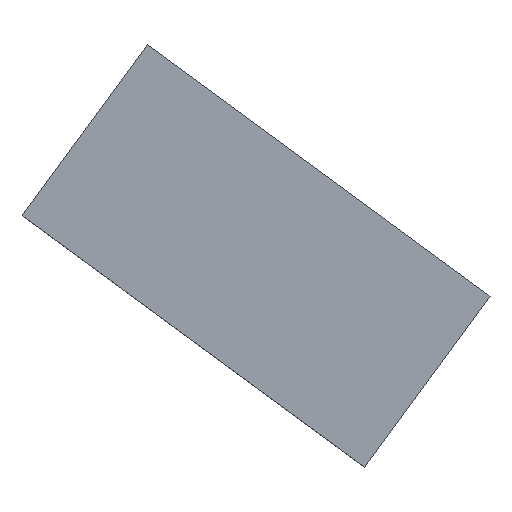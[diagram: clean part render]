
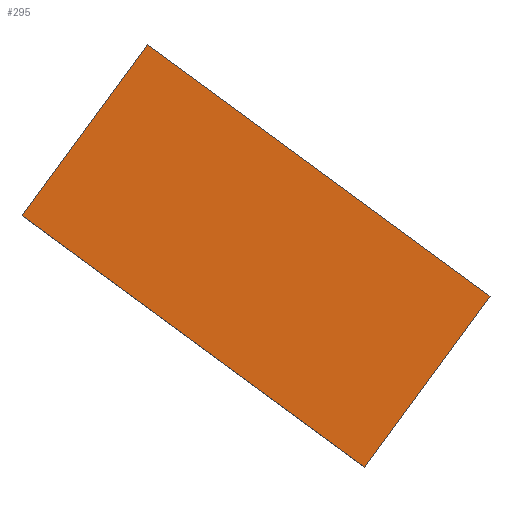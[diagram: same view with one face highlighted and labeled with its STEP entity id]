
A CAD part, top view. The second image highlights one B-rep face of the part: STEP entity #295.
In plain terms, the highlighted planar face has unit normal (0, 0, 1).
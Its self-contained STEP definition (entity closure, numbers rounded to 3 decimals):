
#204 = VERTEX_POINT('',#205);
#205 = CARTESIAN_POINT('',(7.673,8.757,4.95));
#213 = VERTEX_POINT('',#214);
#214 = CARTESIAN_POINT('',(6.061,9.941,4.95));
#220 = EDGE_CURVE('',#204,#213,#221,.T.);
#221 = LINE('',#222,#223);
#222 = CARTESIAN_POINT('',(7.673,8.757,4.95));
#223 = VECTOR('',#224,1.);
#224 = DIRECTION('',(-0.806,0.592,0.));
#236 = EDGE_CURVE('',#213,#237,#239,.T.);
#237 = VERTEX_POINT('',#238);
#238 = CARTESIAN_POINT('',(6.653,10.747,4.95));
#239 = LINE('',#240,#241);
#240 = CARTESIAN_POINT('',(6.061,9.941,4.95));
#241 = VECTOR('',#242,1.);
#242 = DIRECTION('',(0.592,0.806,0.));
#260 = EDGE_CURVE('',#204,#261,#263,.T.);
#261 = VERTEX_POINT('',#262);
#262 = CARTESIAN_POINT('',(8.265,9.563,4.95));
#263 = LINE('',#264,#265);
#264 = CARTESIAN_POINT('',(7.673,8.757,4.95));
#265 = VECTOR('',#266,1.);
#266 = DIRECTION('',(0.592,0.806,0.));
#285 = EDGE_CURVE('',#261,#237,#286,.T.);
#286 = LINE('',#287,#288);
#287 = CARTESIAN_POINT('',(8.265,9.563,4.95));
#288 = VECTOR('',#289,1.);
#289 = DIRECTION('',(-0.806,0.592,0.));
#295 = ADVANCED_FACE('',(#296),#302,.T.);
#296 = FACE_BOUND('',#297,.T.);
#297 = EDGE_LOOP('',(#298,#299,#300,#301));
#298 = ORIENTED_EDGE('',*,*,#220,.F.);
#299 = ORIENTED_EDGE('',*,*,#260,.T.);
#300 = ORIENTED_EDGE('',*,*,#285,.T.);
#301 = ORIENTED_EDGE('',*,*,#236,.F.);
#302 = PLANE('',#303);
#303 = AXIS2_PLACEMENT_3D('',#304,#305,#306);
#304 = CARTESIAN_POINT('',(7.673,8.757,4.95));
#305 = DIRECTION('',(0.,0.,1.));
#306 = DIRECTION('',(0.592,0.806,0.));
